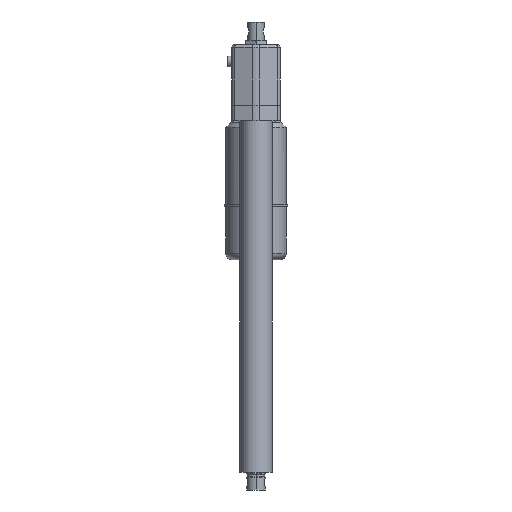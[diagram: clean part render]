
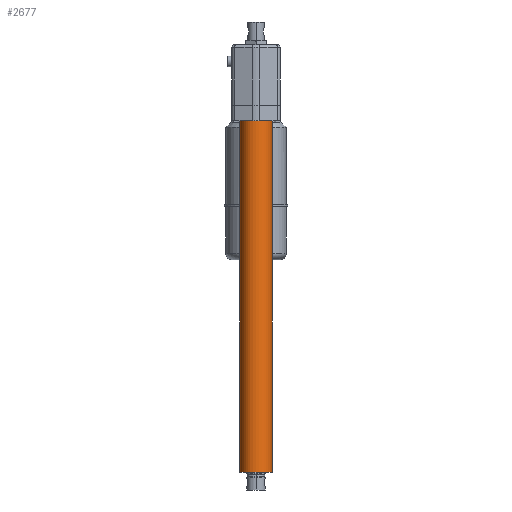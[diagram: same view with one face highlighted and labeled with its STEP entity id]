
A CAD part, front view. The second image highlights one B-rep face of the part: STEP entity #2677.
In plain terms, the highlighted cylindrical face has radius 25.65 mm (diameter 51.3 mm), a partial arc.
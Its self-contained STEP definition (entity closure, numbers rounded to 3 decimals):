
#153 = ORIENTED_EDGE ( 'NONE', *, *, #996, .F. ) ;
#155 = ORIENTED_EDGE ( 'NONE', *, *, #976, .T. ) ;
#157 = ORIENTED_EDGE ( 'NONE', *, *, #1002, .F. ) ;
#163 = ORIENTED_EDGE ( 'NONE', *, *, #1010, .F. ) ;
#976 = EDGE_CURVE ( 'NONE', #2206, #2208, #1929, .T. ) ;
#996 = EDGE_CURVE ( 'NONE', #2206, #2204, #1958, .T. ) ;
#1002 = EDGE_CURVE ( 'NONE', #2207, #2208, #1964, .T. ) ;
#1010 = EDGE_CURVE ( 'NONE', #2204, #2207, #1968, .T. ) ;
#1377 = EDGE_LOOP ( 'NONE', ( #163, #153, #155, #157 ) ) ;
#1928 = VECTOR ( 'NONE', #5335, 1000. ) ;
#1929 = LINE ( 'NONE', #5334, #1928 ) ;
#1958 = CIRCLE ( 'NONE', #3006, 25.65 ) ;
#1963 = VECTOR ( 'NONE', #5432, 1000. ) ;
#1964 = CIRCLE ( 'NONE', #3007, 25.65 ) ;
#1968 = LINE ( 'NONE', #5431, #1963 ) ;
#2204 = VERTEX_POINT ( 'NONE', #5776 ) ;
#2206 = VERTEX_POINT ( 'NONE', #5778 ) ;
#2207 = VERTEX_POINT ( 'NONE', #5779 ) ;
#2208 = VERTEX_POINT ( 'NONE', #5780 ) ;
#2677 = ADVANCED_FACE ( 'NONE', ( #3608 ), #3606, .T. ) ;
#3006 = AXIS2_PLACEMENT_3D ( 'NONE', #5389, #5390, #5391 ) ;
#3007 = AXIS2_PLACEMENT_3D ( 'NONE', #5407, #5409, #5410 ) ;
#3058 = AXIS2_PLACEMENT_3D ( 'NONE', #5920, #5919, #5918 ) ;
#3606 = CYLINDRICAL_SURFACE ( 'NONE', #3058, 25.65 ) ;
#3608 = FACE_OUTER_BOUND ( 'NONE', #1377, .T. ) ;
#5334 = CARTESIAN_POINT ( 'NONE',  ( 25.65, 0., -72.549 ) ) ;
#5335 = DIRECTION ( 'NONE',  ( 0., 0., 1. ) ) ;
#5389 = CARTESIAN_POINT ( 'NONE',  ( 0., 0., 0. ) ) ;
#5390 = DIRECTION ( 'NONE',  ( 0., 0., -1. ) ) ;
#5391 = DIRECTION ( 'NONE',  ( 1., 0., 0. ) ) ;
#5407 = CARTESIAN_POINT ( 'NONE',  ( 0., 0., 555.3 ) ) ;
#5409 = DIRECTION ( 'NONE',  ( 0., 0., 1. ) ) ;
#5410 = DIRECTION ( 'NONE',  ( 1., 0., 0. ) ) ;
#5431 = CARTESIAN_POINT ( 'NONE',  ( -25.65, 0., -72.549 ) ) ;
#5432 = DIRECTION ( 'NONE',  ( 0., 0., 1. ) ) ;
#5776 = CARTESIAN_POINT ( 'NONE',  ( -25.65, 0., 0. ) ) ;
#5778 = CARTESIAN_POINT ( 'NONE',  ( 25.65, 0., 0. ) ) ;
#5779 = CARTESIAN_POINT ( 'NONE',  ( -25.65, 0., 555.3 ) ) ;
#5780 = CARTESIAN_POINT ( 'NONE',  ( 25.65, 0., 555.3 ) ) ;
#5918 = DIRECTION ( 'NONE',  ( 1., 0., 0. ) ) ;
#5919 = DIRECTION ( 'NONE',  ( 0., 0., 1. ) ) ;
#5920 = CARTESIAN_POINT ( 'NONE',  ( 0., 0., -72.549 ) ) ;
